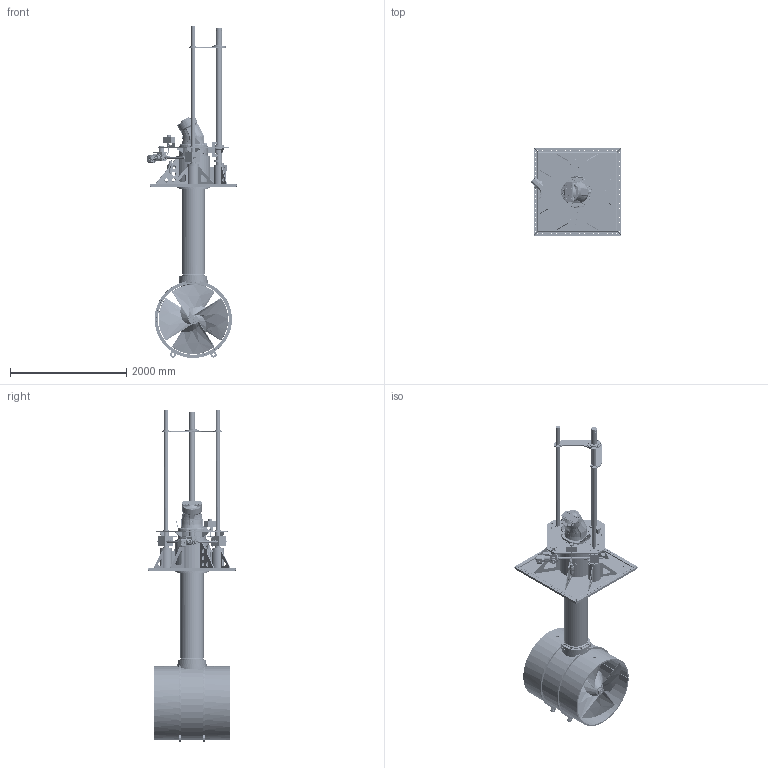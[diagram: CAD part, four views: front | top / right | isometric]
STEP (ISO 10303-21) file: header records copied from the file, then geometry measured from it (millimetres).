
FILE_DESCRIPTION(/* description */ (''),/* implementation_level */ '2;1');
FILE_NAME(/* name */ 'Q:\THRUSTERS\THRUSTER SALES & SUPPORT DOCS\THRUSTER Sales\H-V\H-1200-V\H-1200-V-DEPLOYED.stp',/* time_stamp */ '2020-03-18T18:24:06+00:00',/* author */ ('charlotte.richardson'),/* organization */ (''),/* preprocessor_version */ 'ST-DEVELOPER v17',/* originating_system */ 'Autodesk Inventor 2019',/* authorisation */ '');
FILE_SCHEMA (('AUTOMOTIVE_DESIGN { 1 0 10303 214 3 1 1 }'));
Products named in the file (1): H-1200-V_Shrinkwrap_1
Bounding box: 1546.14 x 1501.98 x 5703.6 mm (x, y, z)
Volume: 614021933.4 mm3; surface area: 44046528.5 mm2
Topology: 12 solids, 12 shells, 4896 faces, 12779 edges, 8442 vertices
Faces by surface type: plane 2049, cylinder 1415, bspline 806, cone 380, torus 213, sphere 33
Full cylindrical faces by diameter (mm): 4.4 x2, 7.2 x2, 7.275 x1, 8 x5, 8.3 x2, 9 x5, 9.2 x1, 10.11 x16, 10.25 x55, 10.3 x26, 10.5 x36, 11 x22, 11.8 x2, 12 x2, 12.4 x10, 12.5 x38, 12.7 x1, 13 x16, 13.157 x1, 14 x4, 14.25 x1, 14.32 x2, 15.25 x6, 15.8 x13, 16 x13, 16.5 x8, 17 x118, 17.5 x24, 18 x12, 18.376 x2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
Entity records: 228780 total; most frequent: CARTESIAN_POINT 105151, ORIENTED_EDGE 25302, DIRECTION 23531, EDGE_CURVE 12651, AXIS2_PLACEMENT_3D 9040, VERTEX_POINT 8441, EDGE_LOOP 6026, LINE 5451
